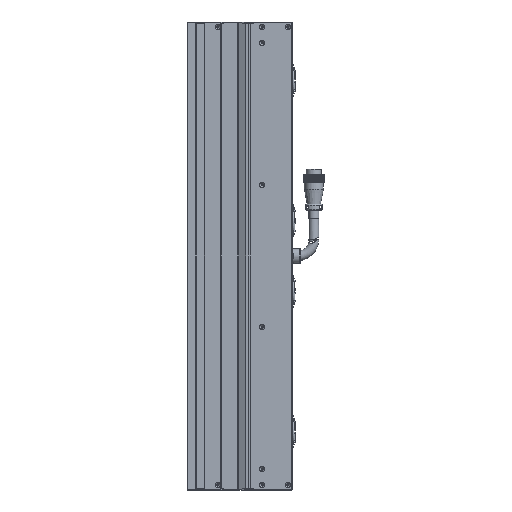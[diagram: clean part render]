
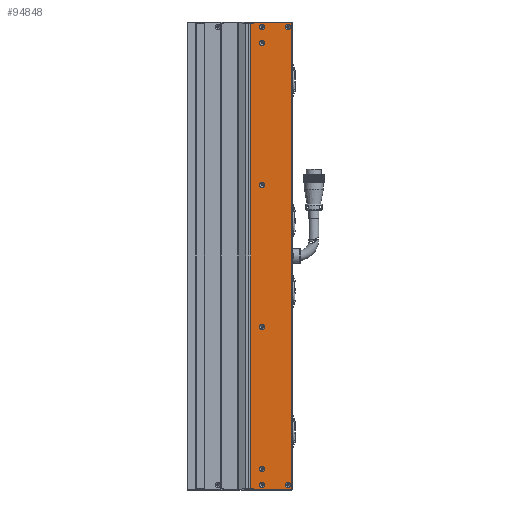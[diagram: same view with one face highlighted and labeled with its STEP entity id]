
A CAD part, left-side view. The second image highlights one B-rep face of the part: STEP entity #94848.
In plain terms, the highlighted planar face has unit normal (-1, 0, 0).
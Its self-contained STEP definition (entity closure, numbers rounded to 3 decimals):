
#1280 = DIRECTION ( 'NONE',  ( 0., 0., 1. ) ) ;
#1822 = DIRECTION ( 'NONE',  ( -1., 0., 0. ) ) ;
#3920 = VECTOR ( 'NONE', #34495, 1000. ) ;
#4477 = CARTESIAN_POINT ( 'NONE',  ( -24.998, -36.5, 258.15 ) ) ;
#4581 = AXIS2_PLACEMENT_3D ( 'NONE', #89435, #11372, #29692 ) ;
#5303 = CIRCLE ( 'NONE', #12955, 3.15 ) ;
#5742 = CIRCLE ( 'NONE', #76353, 3.15 ) ;
#6631 = CARTESIAN_POINT ( 'NONE',  ( -24.998, -23.25, -278. ) ) ;
#7215 = FACE_BOUND ( 'NONE', #101653, .T. ) ;
#8100 = DIRECTION ( 'NONE',  ( 0., 0., -1. ) ) ;
#8149 = EDGE_CURVE ( 'NONE', #39001, #39001, #82142, .T. ) ;
#8639 = EDGE_LOOP ( 'NONE', ( #66782 ) ) ;
#10546 = EDGE_LOOP ( 'NONE', ( #54244 ) ) ;
#10674 = VERTEX_POINT ( 'NONE', #4477 ) ;
#11372 = DIRECTION ( 'NONE',  ( -1., 0., 0. ) ) ;
#11609 = CARTESIAN_POINT ( 'NONE',  ( -24.998, -36.5, 85. ) ) ;
#11738 = ORIENTED_EDGE ( 'NONE', *, *, #86631, .F. ) ;
#12955 = AXIS2_PLACEMENT_3D ( 'NONE', #69674, #19275, #86850 ) ;
#14095 = AXIS2_PLACEMENT_3D ( 'NONE', #56265, #30869, #31236 ) ;
#15405 = DIRECTION ( 'NONE',  ( -1., 0., 0. ) ) ;
#15438 = VECTOR ( 'NONE', #1280, 1000. ) ;
#15845 = DIRECTION ( 'NONE',  ( -1., 0., 0. ) ) ;
#16087 = EDGE_CURVE ( 'NONE', #26150, #17948, #62724, .T. ) ;
#17171 = AXIS2_PLACEMENT_3D ( 'NONE', #92353, #15405, #76256 ) ;
#17805 = LINE ( 'NONE', #30348, #75164 ) ;
#17948 = VERTEX_POINT ( 'NONE', #73569 ) ;
#19275 = DIRECTION ( 'NONE',  ( -1., 0., 0. ) ) ;
#19356 = LINE ( 'NONE', #26682, #15438 ) ;
#20234 = EDGE_CURVE ( 'NONE', #26150, #88262, #71626, .T. ) ;
#21126 = DIRECTION ( 'NONE',  ( -1., 0., 0. ) ) ;
#21578 = VECTOR ( 'NONE', #26308, 1000. ) ;
#21645 = DIRECTION ( 'NONE',  ( 0., -1., 0. ) ) ;
#23092 = CARTESIAN_POINT ( 'NONE',  ( -24.998, -36.5, -81.85 ) ) ;
#23213 = DIRECTION ( 'NONE',  ( 0., 0., 1. ) ) ;
#24315 = CARTESIAN_POINT ( 'NONE',  ( -24.998, -26.5, 279.5 ) ) ;
#24637 = FACE_OUTER_BOUND ( 'NONE', #78562, .T. ) ;
#25224 = EDGE_CURVE ( 'NONE', #17948, #49355, #70959, .T. ) ;
#26150 = VERTEX_POINT ( 'NONE', #32740 ) ;
#26308 = DIRECTION ( 'NONE',  ( 0., 1., 0. ) ) ;
#26652 = LINE ( 'NONE', #34125, #3920 ) ;
#26682 = CARTESIAN_POINT ( 'NONE',  ( -24.998, -23.25, -278. ) ) ;
#27378 = FACE_BOUND ( 'NONE', #8639, .T. ) ;
#27696 = CARTESIAN_POINT ( 'NONE',  ( -24.998, -72.5, -278. ) ) ;
#28076 = CIRCLE ( 'NONE', #94632, 3.15 ) ;
#29692 = DIRECTION ( 'NONE',  ( 0., 0., 1. ) ) ;
#30348 = CARTESIAN_POINT ( 'NONE',  ( -24.998, -26.5, -271. ) ) ;
#30634 = PLANE ( 'NONE',  #64122 ) ;
#30869 = DIRECTION ( 'NONE',  ( -1., 0., 0. ) ) ;
#31236 = DIRECTION ( 'NONE',  ( 0., 0., 1. ) ) ;
#31320 = CARTESIAN_POINT ( 'NONE',  ( -24.998, -36.5, 88.15 ) ) ;
#32302 = LINE ( 'NONE', #27696, #93743 ) ;
#32740 = CARTESIAN_POINT ( 'NONE',  ( -24.998, -72., 279.5 ) ) ;
#32778 = EDGE_LOOP ( 'NONE', ( #107129 ) ) ;
#34125 = CARTESIAN_POINT ( 'NONE',  ( -24.998, -26.5, 271. ) ) ;
#34495 = DIRECTION ( 'NONE',  ( 0., 0., -1. ) ) ;
#35433 = LINE ( 'NONE', #64194, #59354 ) ;
#36811 = DIRECTION ( 'NONE',  ( 0., 0., 1. ) ) ;
#38353 = CIRCLE ( 'NONE', #17171, 3.15 ) ;
#38457 = EDGE_LOOP ( 'NONE', ( #61825 ) ) ;
#38531 = DIRECTION ( 'NONE',  ( -1., 0., 0. ) ) ;
#38861 = CARTESIAN_POINT ( 'NONE',  ( -24.998, -72.5, 279.5 ) ) ;
#39001 = VERTEX_POINT ( 'NONE', #90463 ) ;
#39218 = DIRECTION ( 'NONE',  ( 0., 1., 0. ) ) ;
#41002 = CARTESIAN_POINT ( 'NONE',  ( -24.998, -26.5, -279.5 ) ) ;
#41289 = CARTESIAN_POINT ( 'NONE',  ( -24.998, -36.5, -85. ) ) ;
#41716 = ORIENTED_EDGE ( 'NONE', *, *, #16087, .F. ) ;
#43799 = CARTESIAN_POINT ( 'NONE',  ( -24.998, -23.25, 278. ) ) ;
#45011 = EDGE_CURVE ( 'NONE', #73663, #73663, #38353, .T. ) ;
#49355 = VERTEX_POINT ( 'NONE', #41002 ) ;
#52023 = CIRCLE ( 'NONE', #4581, 3.15 ) ;
#54244 = ORIENTED_EDGE ( 'NONE', *, *, #72785, .F. ) ;
#54522 = ORIENTED_EDGE ( 'NONE', *, *, #103193, .T. ) ;
#54888 = CARTESIAN_POINT ( 'NONE',  ( -24.998, -36.5, 277.15 ) ) ;
#56265 = CARTESIAN_POINT ( 'NONE',  ( -24.998, -67.5, 274. ) ) ;
#56653 = FACE_BOUND ( 'NONE', #107023, .T. ) ;
#58070 = EDGE_CURVE ( 'NONE', #100986, #60409, #19356, .T. ) ;
#58652 = VERTEX_POINT ( 'NONE', #23092 ) ;
#59354 = VECTOR ( 'NONE', #21645, 1000. ) ;
#60409 = VERTEX_POINT ( 'NONE', #43799 ) ;
#61527 = DIRECTION ( 'NONE',  ( 0., 0., 1. ) ) ;
#61825 = ORIENTED_EDGE ( 'NONE', *, *, #96853, .F. ) ;
#61828 = CIRCLE ( 'NONE', #87377, 3.15 ) ;
#62724 = LINE ( 'NONE', #64569, #104287 ) ;
#62834 = EDGE_CURVE ( 'NONE', #100986, #74392, #32302, .T. ) ;
#63543 = DIRECTION ( 'NONE',  ( 0., 0., 1. ) ) ;
#64122 = AXIS2_PLACEMENT_3D ( 'NONE', #64990, #108712, #73187 ) ;
#64194 = CARTESIAN_POINT ( 'NONE',  ( -24.998, -72.5, 278. ) ) ;
#64569 = CARTESIAN_POINT ( 'NONE',  ( -24.998, -72., -271. ) ) ;
#64705 = FACE_BOUND ( 'NONE', #38457, .T. ) ;
#64990 = CARTESIAN_POINT ( 'NONE',  ( -24.998, -72.5, -271. ) ) ;
#66474 = ORIENTED_EDGE ( 'NONE', *, *, #79075, .F. ) ;
#66782 = ORIENTED_EDGE ( 'NONE', *, *, #8149, .F. ) ;
#66794 = VERTEX_POINT ( 'NONE', #72416 ) ;
#69674 = CARTESIAN_POINT ( 'NONE',  ( -24.998, -67.5, -274. ) ) ;
#70069 = FACE_BOUND ( 'NONE', #72067, .T. ) ;
#70354 = CARTESIAN_POINT ( 'NONE',  ( -24.998, -26.5, 278. ) ) ;
#70844 = CARTESIAN_POINT ( 'NONE',  ( -24.998, -36.5, 255. ) ) ;
#70959 = LINE ( 'NONE', #77010, #21578 ) ;
#71626 = LINE ( 'NONE', #38861, #88999 ) ;
#72067 = EDGE_LOOP ( 'NONE', ( #99491 ) ) ;
#72416 = CARTESIAN_POINT ( 'NONE',  ( -24.998, -36.5, -251.85 ) ) ;
#72785 = EDGE_CURVE ( 'NONE', #10674, #10674, #84221, .T. ) ;
#73187 = DIRECTION ( 'NONE',  ( 0., 0., 1. ) ) ;
#73342 = VERTEX_POINT ( 'NONE', #31320 ) ;
#73451 = VERTEX_POINT ( 'NONE', #106106 ) ;
#73569 = CARTESIAN_POINT ( 'NONE',  ( -24.998, -72., -279.5 ) ) ;
#73663 = VERTEX_POINT ( 'NONE', #76563 ) ;
#74060 = EDGE_CURVE ( 'NONE', #73451, #73451, #5303, .T. ) ;
#74115 = EDGE_CURVE ( 'NONE', #66794, #66794, #28076, .T. ) ;
#74392 = VERTEX_POINT ( 'NONE', #84833 ) ;
#75034 = AXIS2_PLACEMENT_3D ( 'NONE', #70844, #1822, #61527 ) ;
#75164 = VECTOR ( 'NONE', #23213, 1000. ) ;
#76256 = DIRECTION ( 'NONE',  ( 0., 0., 1. ) ) ;
#76353 = AXIS2_PLACEMENT_3D ( 'NONE', #11609, #38531, #63543 ) ;
#76563 = CARTESIAN_POINT ( 'NONE',  ( -24.998, -36.5, -270.85 ) ) ;
#76664 = FACE_BOUND ( 'NONE', #32778, .T. ) ;
#77010 = CARTESIAN_POINT ( 'NONE',  ( -24.998, -72.5, -279.5 ) ) ;
#78562 = EDGE_LOOP ( 'NONE', ( #82645, #41716, #98494, #54522, #108739, #86745, #85338, #100888 ) ) ;
#79075 = EDGE_CURVE ( 'NONE', #106970, #106970, #52023, .T. ) ;
#82142 = CIRCLE ( 'NONE', #14095, 3.15 ) ;
#82645 = ORIENTED_EDGE ( 'NONE', *, *, #25224, .F. ) ;
#84221 = CIRCLE ( 'NONE', #75034, 3.15 ) ;
#84707 = FACE_BOUND ( 'NONE', #86005, .T. ) ;
#84833 = CARTESIAN_POINT ( 'NONE',  ( -24.998, -26.5, -278. ) ) ;
#85338 = ORIENTED_EDGE ( 'NONE', *, *, #62834, .T. ) ;
#86005 = EDGE_LOOP ( 'NONE', ( #11738 ) ) ;
#86631 = EDGE_CURVE ( 'NONE', #58652, #58652, #61828, .T. ) ;
#86745 = ORIENTED_EDGE ( 'NONE', *, *, #58070, .F. ) ;
#86849 = VERTEX_POINT ( 'NONE', #70354 ) ;
#86850 = DIRECTION ( 'NONE',  ( 0., 0., 1. ) ) ;
#87069 = EDGE_CURVE ( 'NONE', #49355, #74392, #17805, .T. ) ;
#87377 = AXIS2_PLACEMENT_3D ( 'NONE', #41289, #15845, #108547 ) ;
#88262 = VERTEX_POINT ( 'NONE', #24315 ) ;
#88707 = CARTESIAN_POINT ( 'NONE',  ( -24.998, -36.5, -255. ) ) ;
#88999 = VECTOR ( 'NONE', #39218, 1000. ) ;
#89435 = CARTESIAN_POINT ( 'NONE',  ( -24.998, -36.5, 274. ) ) ;
#90463 = CARTESIAN_POINT ( 'NONE',  ( -24.998, -67.5, 277.15 ) ) ;
#92353 = CARTESIAN_POINT ( 'NONE',  ( -24.998, -36.5, -274. ) ) ;
#93743 = VECTOR ( 'NONE', #95300, 1000. ) ;
#94112 = FACE_BOUND ( 'NONE', #10546, .T. ) ;
#94632 = AXIS2_PLACEMENT_3D ( 'NONE', #88707, #21126, #36811 ) ;
#94848 = ADVANCED_FACE ( 'NONE', ( #24637, #27378, #56653, #70069, #84707, #64705, #94112, #76664, #7215 ), #30634, .F. ) ;
#95300 = DIRECTION ( 'NONE',  ( 0., -1., 0. ) ) ;
#96853 = EDGE_CURVE ( 'NONE', #73342, #73342, #5742, .T. ) ;
#98494 = ORIENTED_EDGE ( 'NONE', *, *, #20234, .T. ) ;
#99491 = ORIENTED_EDGE ( 'NONE', *, *, #74115, .F. ) ;
#100888 = ORIENTED_EDGE ( 'NONE', *, *, #87069, .F. ) ;
#100986 = VERTEX_POINT ( 'NONE', #6631 ) ;
#101653 = EDGE_LOOP ( 'NONE', ( #105203 ) ) ;
#103193 = EDGE_CURVE ( 'NONE', #88262, #86849, #26652, .T. ) ;
#104287 = VECTOR ( 'NONE', #8100, 1000. ) ;
#105203 = ORIENTED_EDGE ( 'NONE', *, *, #45011, .F. ) ;
#106106 = CARTESIAN_POINT ( 'NONE',  ( -24.998, -67.5, -270.85 ) ) ;
#106431 = EDGE_CURVE ( 'NONE', #60409, #86849, #35433, .T. ) ;
#106970 = VERTEX_POINT ( 'NONE', #54888 ) ;
#107023 = EDGE_LOOP ( 'NONE', ( #66474 ) ) ;
#107129 = ORIENTED_EDGE ( 'NONE', *, *, #74060, .F. ) ;
#108547 = DIRECTION ( 'NONE',  ( 0., 0., 1. ) ) ;
#108712 = DIRECTION ( 'NONE',  ( 1., 0., 0. ) ) ;
#108739 = ORIENTED_EDGE ( 'NONE', *, *, #106431, .F. ) ;
